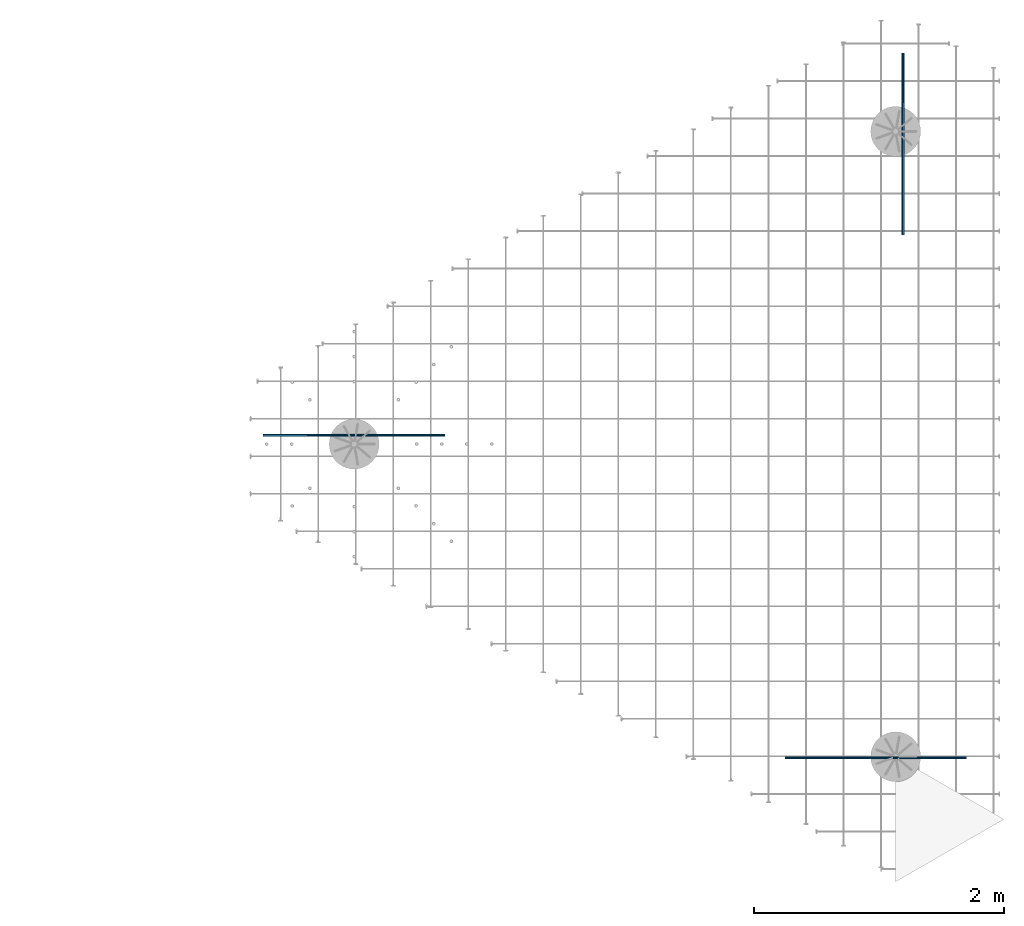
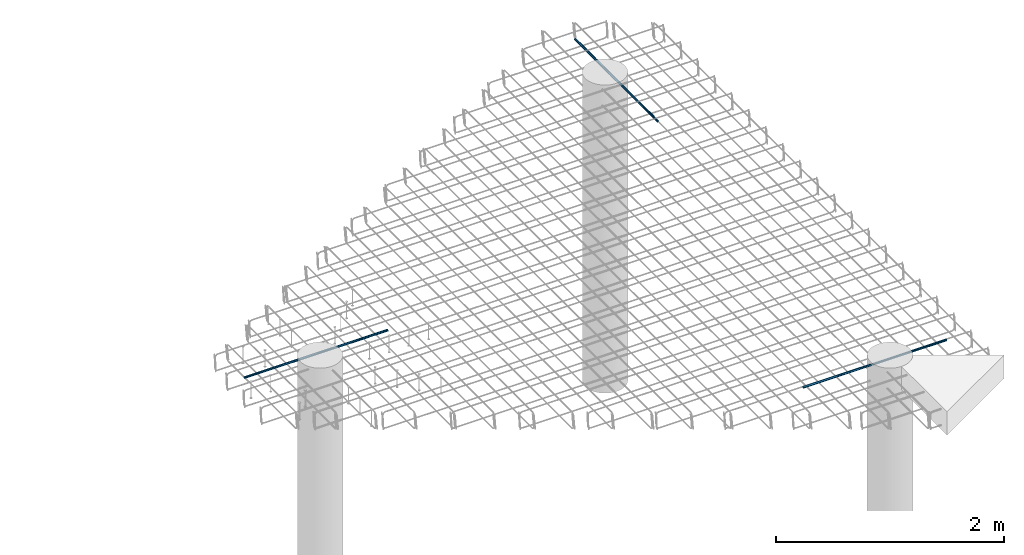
# One storey, part 21 of 24: 1 reinforcing bar.
"""IFC2X3 building model written with IfcOpenShell, lengths in metres."""

from ifc_helpers import new_model, entity, si_unit, direction, frame, origin, place, context, subcontext, project, spatial, shape, source, transform, mapped, element, save


model = new_model("IFC2X3")

# Units and contexts
model_context = context("Model", 3, precision=0.0, world=origin(), true_north=direction((0.0, 1.0)))
plan_context = context("Plan", 3, precision=0.0, world=origin(), true_north=direction((0.0, 1.0)))
body_context = subcontext(model_context, "Body", "Model", "MODEL_VIEW", scale=1.0)
ifc_project = project(units=[si_unit("LENGTHUNIT", "METRE"), si_unit("AREAUNIT", "SQUARE_METRE"), si_unit("VOLUMEUNIT", "CUBIC_METRE"), si_unit("PLANEANGLEUNIT", "RADIAN"), si_unit("THERMODYNAMICTEMPERATUREUNIT", "DEGREE_CELSIUS"), si_unit("FORCEUNIT", "NEWTON"), si_unit("MASSUNIT", "GRAM", prefix="KILO")], contexts=[model_context, plan_context])

# Site, building, storey
placement = place(None, origin())
site = spatial("IfcSite", under=ifc_project, at=placement, Name="Default Site", CompositionType="ELEMENT")
building = spatial("IfcBuilding", under=site, at=placement, Name="Default Building", CompositionType="ELEMENT")
storey_placement = place(placement, frame((0.0, 0.0, 3.3), z_axis=(1.0, 0.0, 0.0), x_axis=(0.0, 0.0, 1.0)))
storey = spatial("IfcBuildingStorey", under=building, at=storey_placement, Name="Piano 2", CompositionType="ELEMENT", Elevation=3.3)

# Reinforcing bar
shared_shape_1 = source(origin(), body_context, None, "AdvancedSweptSolid", [
    entity("IfcSweptDiskSolid", entity("IfcCompositeCurve", [entity("IfcCompositeCurveSegment", "CONTINUOUS", True, entity("IfcPolyline", [entity("IfcCartesianPoint", [0.0, 0.0, 0.0]), entity("IfcCartesianPoint", [1.45, 0.0, 0.0])]))], False), 0.009, 0.0, 0.0),
])
shared_shape_2 = source(origin(), body_context, None, "MappedRepresentation", [mapped(shared_shape_1, transform((25.445, 0.491, 3.271)))])
shared_shape_3 = source(origin(), body_context, None, "AdvancedSweptSolid", [
    entity("IfcSweptDiskSolid", entity("IfcCompositeCurve", [entity("IfcCompositeCurveSegment", "CONTINUOUS", True, entity("IfcPolyline", [entity("IfcCartesianPoint", [0.0, 0.0, 0.0]), entity("IfcCartesianPoint", [1.45, 0.0, 0.0])]))], False), 0.009, 0.0, 0.0),
])
shared_shape_4 = source(origin(), body_context, None, "MappedRepresentation", [mapped(shared_shape_3, transform((21.275, 3.071, 3.271)))])
shared_shape_5 = source(origin(), body_context, None, "AdvancedSweptSolid", [
    entity("IfcSweptDiskSolid", entity("IfcCompositeCurve", [entity("IfcCompositeCurveSegment", "CONTINUOUS", True, entity("IfcPolyline", [entity("IfcCartesianPoint", [0.0, 0.0, 0.0]), entity("IfcCartesianPoint", [0.0, 1.45, 0.0])]))], False), 0.009, 0.0, 0.0),
])
shared_shape_6 = source(origin(), body_context, None, "MappedRepresentation", [mapped(shared_shape_5, transform((26.389, 4.675, 3.253)))])
element("IfcReinforcingBar", 1, at=placement, inside=storey, Name="Arm Superiore; MagaPiastra:1 [Piano:2]", BarLength=4.35, BarRole="MAIN", BarSurface="TEXTURED", NominalDiameter=0.018, shapes=[
    shape(body_context, None, "MappedRepresentation", [mapped(shared_shape_2, transform((0.0, 0.0, 0.0))), mapped(shared_shape_4, transform((0.0, 0.0, 0.0))), mapped(shared_shape_6, transform((0.0, 0.0, 0.0)))]),
])

save(model, "model.ifc")
